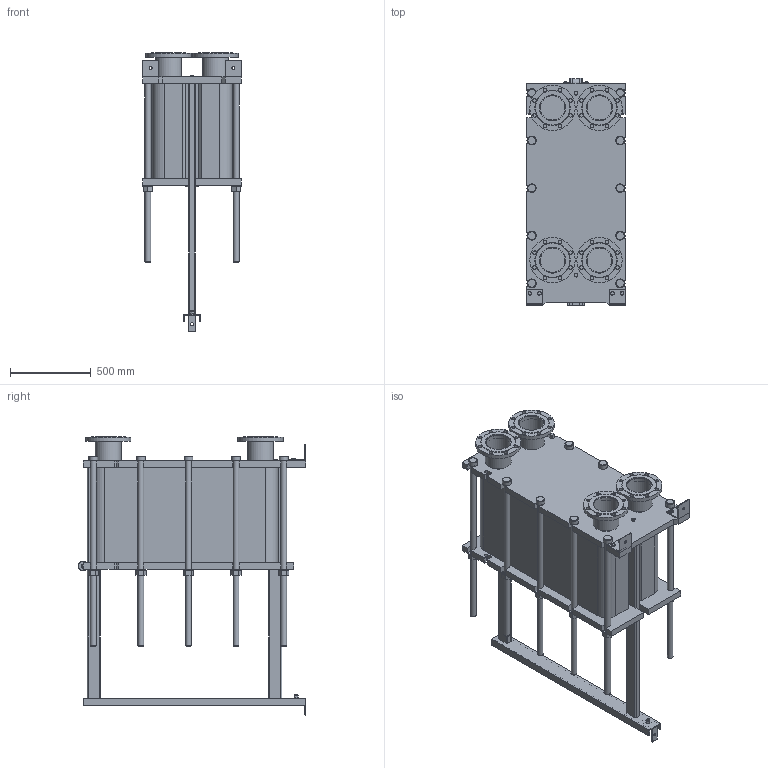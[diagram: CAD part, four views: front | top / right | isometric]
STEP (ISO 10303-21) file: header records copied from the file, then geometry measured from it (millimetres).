
FILE_DESCRIPTION(/* description */ (''),/* implementation_level */ '2;1');
FILE_NAME(/* name */ 'C:\Users\zhuro\Desktop\ENCO\TO\ЭН-041\ЭН-0,5-041-171-1.stp',/* time_stamp */ '2022-06-06T11:04:37+03:00',/* author */ ('zhuro'),/* organization */ (''),/* preprocessor_version */ 'ST-DEVELOPER v18.1',/* originating_system */ 'Autodesk Inventor 2022',/* authorisation */ '');
FILE_SCHEMA (('AUTOMOTIVE_DESIGN { 1 0 10303 214 3 1 1 }'));
Length unit declared in the file: millimetre
Products named in the file (1): ЭН-0,5-041-171-1
Bounding box: 610 x 1406.5 x 1722.5 mm (x, y, z)
Volume: 417272376.2 mm3; surface area: 10590002.9 mm2
Topology: 52 solids, 52 shells, 711 faces, 1696 edges, 1094 vertices
Faces by surface type: plane 487, cylinder 177, cone 41, torus 6
Full cylindrical faces by diameter (mm): 8 x4, 10 x2, 16 x8, 18 x3, 22 x32, 36 x24, 50 x1, 54 x10, 60 x12, 151 x4, 161 x8, 280 x4
Entity records: 22667 total; most frequent: CARTESIAN_POINT 5230, DIRECTION 3644, ORIENTED_EDGE 3392, EDGE_CURVE 1696, AXIS2_PLACEMENT_3D 1272, LINE 1100, VECTOR 1100, VERTEX_POINT 1094
